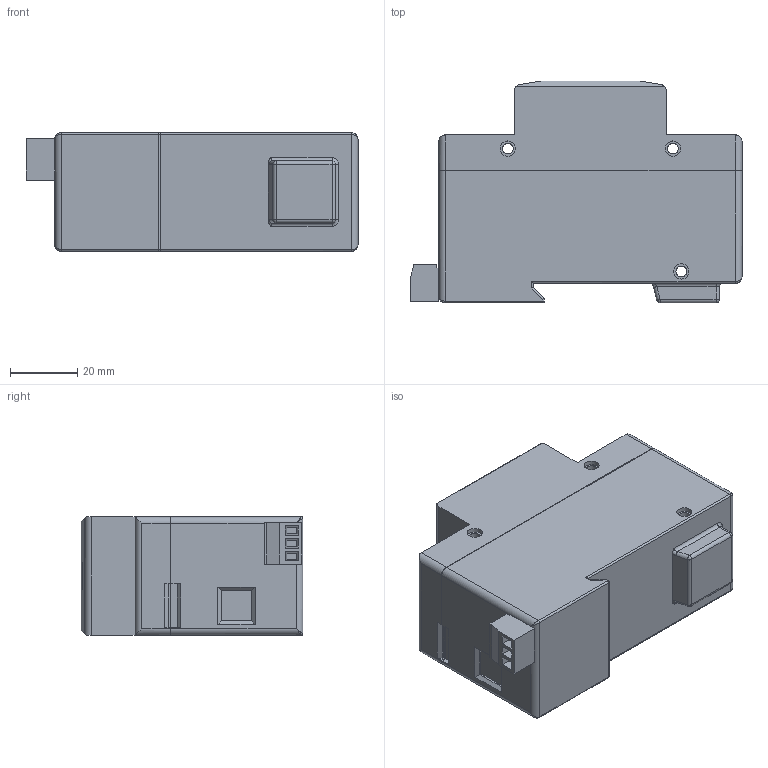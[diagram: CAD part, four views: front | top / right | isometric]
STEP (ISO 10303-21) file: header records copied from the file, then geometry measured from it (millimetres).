
FILE_DESCRIPTION(/* description */ (''),/* implementation_level */ '2;1');
FILE_NAME(/* name */ 'K:\PROJEKTY ROZPRACOVANÉ\MODELY DO KATALOGU\HLSA25, HLSA25G, HLA\3D - STEP\H25 1+0 S.stp',/* time_stamp */ '2020-03-24T07:24:49+01:00',/* author */ ('M Koliska'),/* organization */ (''),/* preprocessor_version */ 'ST-DEVELOPER v18',/* originating_system */ 'Autodesk Inventor 2020',/* authorisation */ '');
FILE_SCHEMA (('AUTOMOTIVE_DESIGN { 1 0 10303 214 3 1 1 }'));
Length unit declared in the file: millimetre
Products named in the file (7): HLSA25 S; HLSA25 S_1; DIN 7985 (H) - M6x10-H; KONEKTOR DEGSON 15EDGK 3.81; KONEKTOR SAMEC; ISO 2009 - M1,6 x 2,5; KONEKTOR DEGSON 15EDGRC 3.81
Assembly tree (10 placements, depth 3):
  HLSA25 S
    HLSA25 S_1
    DIN 7985 (H) - M6x10-H  x3
    KONEKTOR DEGSON 15EDGK 3.81
      KONEKTOR SAMEC
      ISO 2009 - M1,6 x 2,5  x3
    KONEKTOR DEGSON 15EDGRC 3.81
Bounding box: 98.5 x 65.8 x 35.2 mm (x, y, z)
Volume: 171546.6 mm3; surface area: 27451.7 mm2
Topology: 9 solids, 9 shells, 570 faces, 1449 edges, 946 vertices
Faces by surface type: plane 390, cylinder 94, cone 60, torus 11, sphere 9, bspline 6
Full cylindrical faces by diameter (mm): 0.968 x3, 1 x6, 1.171 x3, 1.6 x3, 1.9 x3, 2 x3, 2.5 x3, 3.2 x3, 4.5 x6, 5.5 x3, 6 x3, 7.5 x3
Entity records: 14311 total; most frequent: CARTESIAN_POINT 2646, DIRECTION 2351, ORIENTED_EDGE 2330, EDGE_CURVE 1165, LINE 885, VECTOR 885, VERTEX_POINT 758, AXIS2_PLACEMENT_3D 733
